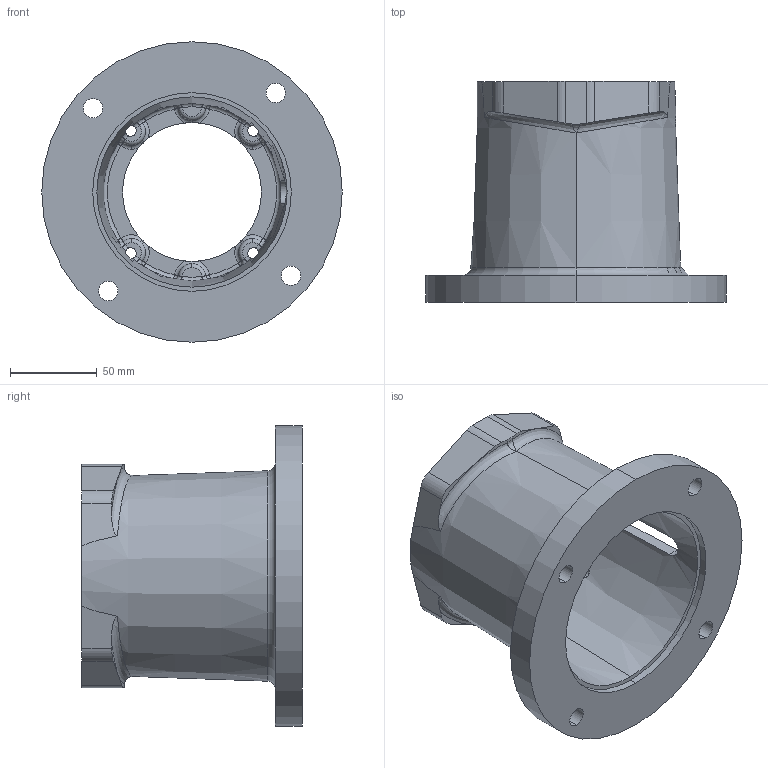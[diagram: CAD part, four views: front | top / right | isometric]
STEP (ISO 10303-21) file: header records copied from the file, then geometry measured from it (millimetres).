
FILE_DESCRIPTION (( 'STEP AP203' ), '1' );
FILE_NAME ('M0565080MS.STEP', '2015-01-19T15:37:06', ( '' ), ( '' ), 'SwSTEP 2.0', 'SolidWorks 2014', '' );
FILE_SCHEMA (( 'CONFIG_CONTROL_DESIGN' ));
Length unit declared in the file: inch
Products named in the file (1): M0565080MS
Bounding box: 172.97 x 127 x 172.97 mm (x, y, z)
Volume: 530787.4 mm3; surface area: 129279.8 mm2
Topology: 1 solids, 1 shells, 182 faces, 478 edges, 281 vertices
Faces by surface type: torus 46, cylinder 34, plane 32, bspline 30, sphere 24, cone 16
Entity records: 7760 total; most frequent: CARTESIAN_POINT 3391, ORIENTED_EDGE 928, DIRECTION 928, EDGE_CURVE 464, AXIS2_PLACEMENT_3D 427, VERTEX_POINT 281, CIRCLE 274, EDGE_LOOP 199
